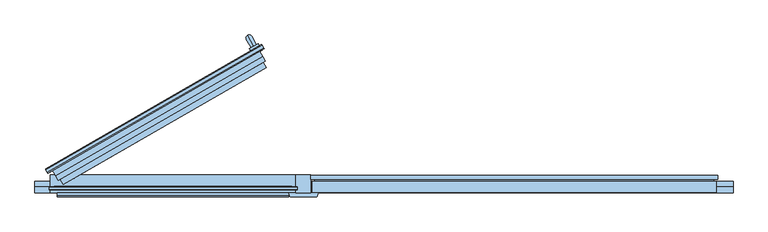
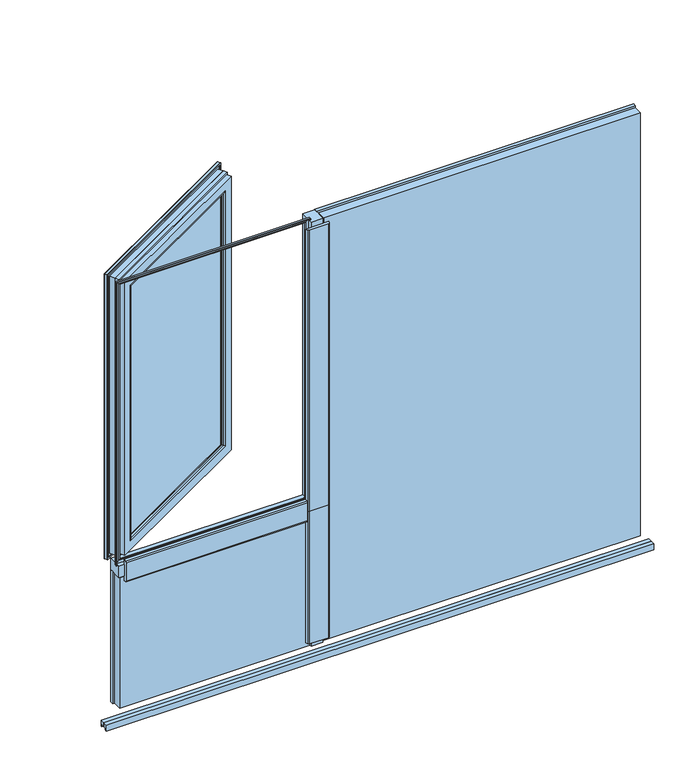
"""IFC4 building model written with IfcOpenShell, lengths in millimetres: window geometry, windowss9000gealanturntiltwindowsublightfixedwindow : windowss9000 2.60 x 2.25."""

from ifc_helpers import new_model, si_unit, point, frame, frame_2d, origin, place, context, project, spatial, polyline, circle_curve, ellipse_curve, trimmed, segment, composite_curve, outline, extrude, faceted_brep, source, transform, mapped, element, save
from ifc_brep_helpers import plane_surface, cylinder_surface, advanced_brep


def window_dbaeacc6(model_context):
    return source(origin(), model_context, "Body", "SolidModel", [
        faceted_brep([(-1225.0185609, -81.9435696, 1634.9814391), (-1225.0185609, -81.9435696, 3015.0185609), (-1228.9615609, -82.1650228, 3018.9615609), (-1228.9615609, -82.1650228, 1631.0384391), (-1225.0185609, -80.4586856, 1634.9814391), (-1225.0185609, -80.4586856, 3015.0185609), (-1227.3731482, -79.9993258, 1632.6268518), (-1227.3731482, -79.9993258, 3017.3731482), (-1246.1, -81.7, 1613.9), (-1246.1, -81.7, 3036.1), (-1246.1, -90.9718819, 1613.9), (-1246.1, -90.9718819, 3036.1), (-1246.4143137, -92.4497497, 1613.5856863), (-1246.4143137, -92.4497497, 3036.4143137), (-1245.4535534, -92.3254352, 1614.5464466), (-1245.4535534, -92.3254352, 3035.4535534), (-1243.8934304, -89.4676231, 1616.1065696), (-1243.8934304, -89.4676231, 3033.8934304), (-1243.4676669, -84.0419926, 1616.5323331), (-1243.4676669, -84.0419926, 3033.4676669), (-344.9814391, -81.9435696, 3015.0185609), (-341.0384391, -82.1650228, 3018.9615609), (-344.9814391, -80.4586856, 3015.0185609), (-342.6268518, -79.9993258, 3017.3731482), (-323.9, -81.7, 3036.1), (-323.9, -90.9718819, 3036.1), (-323.5856863, -92.4497497, 3036.4143137), (-324.5464466, -92.3254352, 3035.4535534), (-326.1065696, -89.4676231, 3033.8934304), (-326.5323331, -84.0419926, 3033.4676669), (-344.9814391, -81.9435696, 1634.9814391), (-341.0384391, -82.1650228, 1631.0384391), (-344.9814391, -80.4586856, 1634.9814391), (-342.6268518, -79.9993258, 1632.6268518), (-323.9, -81.7, 1613.9), (-323.9, -90.9718819, 1613.9), (-323.5856863, -92.4497497, 1613.5856863), (-324.5464466, -92.3254352, 1614.5464466), (-326.1065696, -89.4676231, 1616.1065696), (-326.5323331, -84.0419926, 1616.5323331)], [[[0, 1, 2, 3]], [[4, 5, 1, 0]], [[6, 7, 5, 4]], [[8, 9, 7, 6]], [[10, 11, 9, 8]], [[12, 13, 11, 10]], [[14, 15, 13, 12]], [[16, 17, 15, 14]], [[18, 19, 17, 16]], [[3, 2, 19, 18]], [[1, 20, 21, 2]], [[5, 22, 20, 1]], [[7, 23, 22, 5]], [[9, 24, 23, 7]], [[11, 25, 24, 9]], [[13, 26, 25, 11]], [[15, 27, 26, 13]], [[17, 28, 27, 15]], [[19, 29, 28, 17]], [[2, 21, 29, 19]], [[20, 30, 31, 21]], [[22, 32, 30, 20]], [[23, 33, 32, 22]], [[24, 34, 33, 23]], [[25, 35, 34, 24]], [[26, 36, 35, 25]], [[27, 37, 36, 26]], [[28, 38, 37, 27]], [[29, 39, 38, 28]], [[21, 31, 39, 29]], [[30, 0, 3, 31]], [[32, 4, 0, 30]], [[33, 6, 4, 32]], [[34, 8, 6, 33]], [[35, 10, 8, 34]], [[36, 12, 10, 35]], [[37, 14, 12, 36]], [[38, 16, 14, 37]], [[39, 18, 16, 38]], [[31, 3, 18, 39]]]),
        extrude(outline(polyline([(913.9987828, 1226.0012172), (3016.0012172, 1226.0012172), (3016.0012172, -256.0012172), (913.9987828, -256.0012172), (913.9987828, 1226.0012172)]), holes=[polyline([(3006.0012172, 1216.0012172), (923.9987828, 1216.0012172), (923.9987828, -246.0012172), (3006.0012172, -246.0012172), (3006.0012172, 1216.0012172)])]), frame((0.0, -62.0, 0.0), z_axis=(0.0, 1.0, 0.0), x_axis=(0.0, 0.0, 1.0)), (0.0, 0.0, 1.0), 2.5),
        advanced_brep(
        [(1242.0, -39.0, 3032.0), (1242.0, -54.5, 3032.0), (1242.0, -54.5, 898.0), (1242.0, -39.0, 898.0), (1227.8034793, -59.5, 3017.8034793), (1227.8034793, -59.5, 912.1965207), (1229.1432253, -54.5, 910.8567747), (1229.1432253, -54.5, 3019.1432253), (1216.0012172, -57.9825503, 3006.0012172), (1216.0012172, -57.9825503, 923.9987828), (1216.0012172, -59.5, 923.9987828), (1216.0012172, -59.5, 3006.0012172), (1219.8959832, -43.4470857, 3009.8959832), (1219.8959832, -43.4470857, 920.1040168), (1225.6915381, -39.0, 3015.6915381), (1225.6915381, -39.0, 914.3084619), (-272.0, -54.5, 898.0), (-272.0, -39.0, 898.0), (-257.8034793, -59.5, 912.1965207), (-259.1432253, -54.5, 910.8567747), (-246.0012172, -57.9825503, 923.9987828), (-246.0012172, -59.5, 923.9987828), (-249.8959832, -43.4470857, 920.1040168), (-255.6915381, -39.0, 914.3084619), (-272.0, -54.5, 3032.0), (-272.0, -39.0, 3032.0), (-257.8034793, -59.5, 3017.8034793), (-259.1432253, -54.5, 3019.1432253), (-246.0012172, -57.9825503, 3006.0012172), (-246.0012172, -59.5, 3006.0012172), (-249.8959832, -43.4470857, 3009.8959832), (-255.6915381, -39.0, 3015.6915381)],
        [
            (0, 1),
            (1, 2),
            (2, 3),
            (3, 0),
            (4, 5),
            (5, 6),
            (6, 7),
            (7, 4),
            (8, 9),
            (9, 10),
            (10, 11),
            (11, 8),
            (12, 13),
            (13, 9),
            (8, 12),
            (14, 15),
            (15, 13, ellipse_curve(frame((1225.6915381, -45.0, 914.3084619), z_axis=(0.7071067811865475, 0.0, 0.7071067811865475), x_axis=(-0.7071067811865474, 0.0, 0.7071067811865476)), 8.4852814, 6.0)),
            (12, 14, ellipse_curve(frame((1225.6915381, -45.0, 3015.6915381), z_axis=(0.7071067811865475, 0.0, -0.7071067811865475), x_axis=(0.7071067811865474, 0.0, 0.7071067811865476)), 8.4852814, 6.0)),
            (2, 16),
            (16, 17),
            (17, 3),
            (5, 18),
            (18, 19),
            (19, 6),
            (9, 20),
            (20, 21),
            (21, 10),
            (13, 22),
            (22, 20),
            (15, 23),
            (23, 22, ellipse_curve(frame((-255.6915381, -45.0, 914.3084619), z_axis=(0.7071067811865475, 0.0, -0.7071067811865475), x_axis=(0.7071067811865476, 0.0, 0.7071067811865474)), 8.4852814, 6.0)),
            (16, 24),
            (24, 25),
            (25, 17),
            (18, 26),
            (26, 27),
            (27, 19),
            (20, 28),
            (28, 29),
            (29, 21),
            (22, 30),
            (30, 28),
            (23, 31),
            (31, 30, ellipse_curve(frame((-255.6915381, -45.0, 3015.6915381), z_axis=(-0.7071067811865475, 0.0, -0.7071067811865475), x_axis=(0.7071067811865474, 0.0, -0.7071067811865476)), 8.4852814, 6.0)),
            (25, 0),
            (14, 31),
            (24, 1),
            (27, 7),
            (26, 4),
            (29, 11),
            (28, 8),
            (30, 12),
        ],
        [
            plane_surface(frame((1242.0, -40.0, 3032.0), z_axis=(1.0, 0.0, 0.0), x_axis=(0.0, 0.0, -1.0))),
            plane_surface(frame((1229.1432253, -54.5, 3019.1432253), z_axis=(0.9659258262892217, -0.2588190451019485, 0.0), x_axis=(0.0, 0.0, -1.0))),
            plane_surface(frame((1216.0012172, -59.5, 3006.0012172), z_axis=(-1.0, 0.0, 0.0), x_axis=(0.0, 0.0, -1.0))),
            plane_surface(frame((1216.0012172, -57.9825503, 3006.0012172), z_axis=(-0.96592582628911, 0.2588190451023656, 0.0), x_axis=(0.0, 0.0, -1.0))),
            cylinder_surface(frame((1225.6915381, -45.0, 3032.0), z_axis=(0.0, 0.0, 1.0), x_axis=(-0.9659258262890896, 0.25881904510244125, 0.0)), 6.0),
            plane_surface(frame((1242.0, -40.0, 898.0), z_axis=(0.0, 0.0, -1.0), x_axis=(-1.0, 0.0, 0.0))),
            plane_surface(frame((1229.1432253, -54.5, 910.8567747), z_axis=(0.0, -0.2588190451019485, -0.9659258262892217), x_axis=(-1.0, 0.0, 0.0))),
            plane_surface(frame((1216.0012172, -59.5, 923.9987828), z_axis=(0.0, 0.0, 1.0), x_axis=(-1.0, 0.0, 0.0))),
            plane_surface(frame((1216.0012172, -57.9825503, 923.9987828), z_axis=(0.0, 0.2588190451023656, 0.96592582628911), x_axis=(-1.0, 0.0, 0.0))),
            cylinder_surface(frame((1242.0, -45.0, 914.3084619), z_axis=(1.0, 0.0, 0.0), x_axis=(0.0, 0.25881904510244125, 0.9659258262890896)), 6.0),
            plane_surface(frame((-272.0, -40.0, 898.0), z_axis=(-1.0, 0.0, 0.0), x_axis=(0.0, 0.0, 1.0))),
            plane_surface(frame((-259.1432253, -54.5, 910.8567747), z_axis=(-0.9659258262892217, -0.2588190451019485, 0.0), x_axis=(0.0, 0.0, 1.0))),
            plane_surface(frame((-246.0012172, -59.5, 923.9987828), z_axis=(1.0, 0.0, 0.0), x_axis=(0.0, 0.0, 1.0))),
            plane_surface(frame((-246.0012172, -57.9825503, 923.9987828), z_axis=(0.96592582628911, 0.2588190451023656, 0.0), x_axis=(0.0, 0.0, 1.0))),
            cylinder_surface(frame((-255.6915381, -45.0, 898.0), z_axis=(0.0, 0.0, -1.0), x_axis=(0.9659258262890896, 0.25881904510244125, 0.0)), 6.0),
            plane_surface(frame((-255.6915381, -39.0, 3015.6915381), z_axis=(0.0, 1.0, 0.0), x_axis=(1.0, 0.0, 0.0))),
            plane_surface(frame((-272.0, -40.0, 3032.0), z_axis=(0.0, 0.0, 1.0), x_axis=(1.0, 0.0, 0.0))),
            plane_surface(frame((-272.0, -54.5, 3032.0), z_axis=(0.0, -1.0, 0.0), x_axis=(1.0, 0.0, 0.0))),
            plane_surface(frame((-259.1432253, -54.5, 3019.1432253), z_axis=(0.0, -0.2588190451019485, 0.9659258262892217), x_axis=(1.0, 0.0, 0.0))),
            plane_surface(frame((-257.8034793, -59.5, 3017.8034793), z_axis=(0.0, -1.0, 0.0), x_axis=(1.0, 0.0, 0.0))),
            plane_surface(frame((-246.0012172, -59.5, 3006.0012172), z_axis=(0.0, 0.0, -1.0), x_axis=(1.0, 0.0, 0.0))),
            plane_surface(frame((-246.0012172, -57.9825503, 3006.0012172), z_axis=(0.0, 0.2588190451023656, -0.96592582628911), x_axis=(1.0, 0.0, 0.0))),
            cylinder_surface(frame((-272.0, -45.0, 3015.6915381), z_axis=(-1.0, 0.0, 0.0), x_axis=(0.0, 0.25881904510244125, -0.9659258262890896)), 6.0),
        ],
        [
            (0, [[1, 2, 3, 4]]),
            (1, [[5, 6, 7, 8]]),
            (2, [[9, 10, 11, 12]]),
            (3, [[13, 14, -9, 15]]),
            (4, [[16, 17, -13, 18]]),
            (5, [[19, 20, 21, -3]]),
            (6, [[22, 23, 24, -6]]),
            (7, [[25, 26, 27, -10]]),
            (8, [[28, 29, -25, -14]]),
            (9, [[30, 31, -28, -17]]),
            (10, [[32, 33, 34, -20]]),
            (11, [[35, 36, 37, -23]]),
            (12, [[38, 39, 40, -26]]),
            (13, [[41, 42, -38, -29]]),
            (14, [[43, 44, -41, -31]]),
            (15, [[-4, -21, -34, 45], [-16, 46, -43, -30]]),
            (16, [[47, -1, -45, -33]]),
            (17, [[-2, -47, -32, -19], [-7, -24, -37, 48]]),
            (18, [[49, -8, -48, -36]]),
            (19, [[-5, -49, -35, -22], [-11, -27, -40, 50]]),
            (20, [[51, -12, -50, -39]]),
            (21, [[52, -15, -51, -42]]),
            (22, [[-46, -18, -52, -44]]),
        ],
    ),
        extrude(outline(polyline([(913.9987828, -343.9987828), (1546.0012172, -343.9987828), (1546.0012172, -1226.0012172), (913.9987828, -1226.0012172), (913.9987828, -343.9987828)]), holes=[polyline([(1536.0012172, -353.9987828), (923.9987828, -353.9987828), (923.9987828, -1216.0012172), (1536.0012172, -1216.0012172), (1536.0012172, -353.9987828)])]), frame((0.0, -62.0, 0.0), z_axis=(0.0, 1.0, 0.0), x_axis=(0.0, 0.0, 1.0)), (0.0, 0.0, 1.0), 2.5),
        advanced_brep(
        [(-328.0, -39.0, 1562.0), (-328.0, -54.5, 1562.0), (-328.0, -54.5, 898.0), (-328.0, -39.0, 898.0), (-342.1965207, -59.5, 1547.8034793), (-342.1965207, -59.5, 912.1965207), (-340.8567747, -54.5, 910.8567747), (-340.8567747, -54.5, 1549.1432253), (-353.9987828, -57.9825503, 1536.0012172), (-353.9987828, -57.9825503, 923.9987828), (-353.9987828, -59.5, 923.9987828), (-353.9987828, -59.5, 1536.0012172), (-350.1040168, -43.4470857, 1539.8959832), (-350.1040168, -43.4470857, 920.1040168), (-344.3084619, -39.0, 1545.6915381), (-344.3084619, -39.0, 914.3084619), (-1242.0, -54.5, 898.0), (-1242.0, -39.0, 898.0), (-1227.8034793, -59.5, 912.1965207), (-1229.1432253, -54.5, 910.8567747), (-1216.0012172, -57.9825503, 923.9987828), (-1216.0012172, -59.5, 923.9987828), (-1219.8959832, -43.4470857, 920.1040168), (-1225.6915381, -39.0, 914.3084619), (-1242.0, -54.5, 1562.0), (-1242.0, -39.0, 1562.0), (-1227.8034793, -59.5, 1547.8034793), (-1229.1432253, -54.5, 1549.1432253), (-1216.0012172, -57.9825503, 1536.0012172), (-1216.0012172, -59.5, 1536.0012172), (-1219.8959832, -43.4470857, 1539.8959832), (-1225.6915381, -39.0, 1545.6915381)],
        [
            (0, 1),
            (1, 2),
            (2, 3),
            (3, 0),
            (4, 5),
            (5, 6),
            (6, 7),
            (7, 4),
            (8, 9),
            (9, 10),
            (10, 11),
            (11, 8),
            (12, 13),
            (13, 9),
            (8, 12),
            (14, 15),
            (15, 13, ellipse_curve(frame((-344.3084619, -45.0, 914.3084619), z_axis=(0.7071067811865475, 0.0, 0.7071067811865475), x_axis=(-0.7071067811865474, 0.0, 0.7071067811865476)), 8.4852814, 6.0)),
            (12, 14, ellipse_curve(frame((-344.3084619, -45.0, 1545.6915381), z_axis=(0.7071067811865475, 0.0, -0.7071067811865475), x_axis=(0.7071067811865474, 0.0, 0.7071067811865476)), 8.4852814, 6.0)),
            (2, 16),
            (16, 17),
            (17, 3),
            (5, 18),
            (18, 19),
            (19, 6),
            (9, 20),
            (20, 21),
            (21, 10),
            (13, 22),
            (22, 20),
            (15, 23),
            (23, 22, ellipse_curve(frame((-1225.6915381, -45.0, 914.3084619), z_axis=(0.7071067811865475, 0.0, -0.7071067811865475), x_axis=(0.7071067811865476, 0.0, 0.7071067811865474)), 8.4852814, 6.0)),
            (16, 24),
            (24, 25),
            (25, 17),
            (18, 26),
            (26, 27),
            (27, 19),
            (20, 28),
            (28, 29),
            (29, 21),
            (22, 30),
            (30, 28),
            (23, 31),
            (31, 30, ellipse_curve(frame((-1225.6915381, -45.0, 1545.6915381), z_axis=(-0.7071067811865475, 0.0, -0.7071067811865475), x_axis=(0.7071067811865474, 0.0, -0.7071067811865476)), 8.4852814, 6.0)),
            (25, 0),
            (14, 31),
            (24, 1),
            (27, 7),
            (26, 4),
            (29, 11),
            (28, 8),
            (30, 12),
        ],
        [
            plane_surface(frame((-328.0, -40.0, 1562.0), z_axis=(1.0, 0.0, 0.0), x_axis=(0.0, 0.0, -1.0))),
            plane_surface(frame((-340.8567747, -54.5, 1549.1432253), z_axis=(0.9659258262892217, -0.2588190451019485, 0.0), x_axis=(0.0, 0.0, -1.0))),
            plane_surface(frame((-353.9987828, -59.5, 1536.0012172), z_axis=(-1.0, 0.0, 0.0), x_axis=(0.0, 0.0, -1.0))),
            plane_surface(frame((-353.9987828, -57.9825503, 1536.0012172), z_axis=(-0.96592582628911, 0.2588190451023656, 0.0), x_axis=(0.0, 0.0, -1.0))),
            cylinder_surface(frame((-344.3084619, -45.0, 1562.0), z_axis=(0.0, 0.0, 1.0), x_axis=(-0.9659258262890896, 0.25881904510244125, 0.0)), 6.0),
            plane_surface(frame((-328.0, -40.0, 898.0), z_axis=(0.0, 0.0, -1.0), x_axis=(-1.0, 0.0, 0.0))),
            plane_surface(frame((-340.8567747, -54.5, 910.8567747), z_axis=(0.0, -0.2588190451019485, -0.9659258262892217), x_axis=(-1.0, 0.0, 0.0))),
            plane_surface(frame((-353.9987828, -59.5, 923.9987828), z_axis=(0.0, 0.0, 1.0), x_axis=(-1.0, 0.0, 0.0))),
            plane_surface(frame((-353.9987828, -57.9825503, 923.9987828), z_axis=(0.0, 0.2588190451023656, 0.96592582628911), x_axis=(-1.0, 0.0, 0.0))),
            cylinder_surface(frame((-328.0, -45.0, 914.3084619), z_axis=(1.0, 0.0, 0.0), x_axis=(0.0, 0.25881904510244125, 0.9659258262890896)), 6.0),
            plane_surface(frame((-1242.0, -40.0, 898.0), z_axis=(-1.0, 0.0, 0.0), x_axis=(0.0, 0.0, 1.0))),
            plane_surface(frame((-1229.1432253, -54.5, 910.8567747), z_axis=(-0.9659258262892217, -0.2588190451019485, 0.0), x_axis=(0.0, 0.0, 1.0))),
            plane_surface(frame((-1216.0012172, -59.5, 923.9987828), z_axis=(1.0, 0.0, 0.0), x_axis=(0.0, 0.0, 1.0))),
            plane_surface(frame((-1216.0012172, -57.9825503, 923.9987828), z_axis=(0.96592582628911, 0.2588190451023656, 0.0), x_axis=(0.0, 0.0, 1.0))),
            cylinder_surface(frame((-1225.6915381, -45.0, 898.0), z_axis=(0.0, 0.0, -1.0), x_axis=(0.9659258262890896, 0.25881904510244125, 0.0)), 6.0),
            plane_surface(frame((-1225.6915381, -39.0, 1545.6915381), z_axis=(0.0, 1.0, 0.0), x_axis=(1.0, 0.0, 0.0))),
            plane_surface(frame((-1242.0, -40.0, 1562.0), z_axis=(0.0, 0.0, 1.0), x_axis=(1.0, 0.0, 0.0))),
            plane_surface(frame((-1242.0, -54.5, 1562.0), z_axis=(0.0, -1.0, 0.0), x_axis=(1.0, 0.0, 0.0))),
            plane_surface(frame((-1229.1432253, -54.5, 1549.1432253), z_axis=(0.0, -0.2588190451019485, 0.9659258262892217), x_axis=(1.0, 0.0, 0.0))),
            plane_surface(frame((-1227.8034793, -59.5, 1547.8034793), z_axis=(0.0, -1.0, 0.0), x_axis=(1.0, 0.0, 0.0))),
            plane_surface(frame((-1216.0012172, -59.5, 1536.0012172), z_axis=(0.0, 0.0, -1.0), x_axis=(1.0, 0.0, 0.0))),
            plane_surface(frame((-1216.0012172, -57.9825503, 1536.0012172), z_axis=(0.0, 0.2588190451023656, -0.96592582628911), x_axis=(1.0, 0.0, 0.0))),
            cylinder_surface(frame((-1242.0, -45.0, 1545.6915381), z_axis=(-1.0, 0.0, 0.0), x_axis=(0.0, 0.25881904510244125, -0.9659258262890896)), 6.0),
        ],
        [
            (0, [[1, 2, 3, 4]]),
            (1, [[5, 6, 7, 8]]),
            (2, [[9, 10, 11, 12]]),
            (3, [[13, 14, -9, 15]]),
            (4, [[16, 17, -13, 18]]),
            (5, [[19, 20, 21, -3]]),
            (6, [[22, 23, 24, -6]]),
            (7, [[25, 26, 27, -10]]),
            (8, [[28, 29, -25, -14]]),
            (9, [[30, 31, -28, -17]]),
            (10, [[32, 33, 34, -20]]),
            (11, [[35, 36, 37, -23]]),
            (12, [[38, 39, 40, -26]]),
            (13, [[41, 42, -38, -29]]),
            (14, [[43, 44, -41, -31]]),
            (15, [[-4, -21, -34, 45], [-16, 46, -43, -30]]),
            (16, [[47, -1, -45, -33]]),
            (17, [[-2, -47, -32, -19], [-7, -24, -37, 48]]),
            (18, [[49, -8, -48, -36]]),
            (19, [[-5, -49, -35, -22], [-11, -27, -40, 50]]),
            (20, [[51, -12, -50, -39]]),
            (21, [[52, -15, -51, -42]]),
            (22, [[-46, -18, -52, -44]]),
        ],
    ),
        extrude(outline(polyline([(-267.0, -102.0), (-267.0, -62.0), (1237.0, -62.0), (1237.0, -102.0), (-267.0, -102.0)])), frame((0.0, 0.0, 903.0), z_axis=(0.0, 0.0, 1.0), x_axis=(1.0, 0.0, 0.0)), (0.0, 0.0, 1.0), 2124.0),
        extrude(outline(composite_curve([segment(polyline([(-254.3447903, -120.0), (-345.6552097, -120.0)]), True, "CONTINUOUS"), segment(trimmed(circle_curve(frame_2d((-345.6552097, -114.0)), 6.0), [point((-345.6552097, -120.0))], [point((-351.4507647, -115.5529143))], False, "CARTESIAN"), True, "CONTINUOUS"), segment(polyline([(-351.4507647, -115.5529143), (-354.3100167, -105.0), (-245.7215904, -105.0), (-248.5492353, -115.5529143)]), True, "CONTINUOUS"), segment(trimmed(circle_curve(frame_2d((-254.3447903, -114.0)), 6.0), [point((-248.5492353, -115.5529143))], [point((-254.3447903, -120.0))], False, "CARTESIAN"), True, "CONTINUOUS")], self_intersect=False)), frame((0.0, 0.0, 1590.0), z_axis=(0.0, 0.0, 1.0), x_axis=(1.0, 0.0, 0.0)), (0.0, 0.0, 1.0), 1411.9),
        extrude(outline(polyline([(-328.0, -37.5), (-272.0, -37.5), (-272.0, -105.0), (-328.0, -105.0), (-328.0, -37.5)])), frame((0.0, 0.0, 1590.0), z_axis=(0.0, 0.0, 1.0), x_axis=(1.0, 0.0, 0.0)), (0.0, 0.0, 1.0), 1437.9),
        extrude(outline(composite_curve([segment(polyline([(-254.3447903, -120.0), (-345.6552097, -120.0)]), True, "CONTINUOUS"), segment(trimmed(circle_curve(frame_2d((-345.6552097, -114.0)), 6.0), [point((-345.6552097, -120.0))], [point((-351.4507647, -115.5529143))], False, "CARTESIAN"), True, "CONTINUOUS"), segment(polyline([(-351.4507647, -115.5529143), (-354.3100167, -105.0), (-245.7215904, -105.0), (-248.5492353, -115.5529143)]), True, "CONTINUOUS"), segment(trimmed(circle_curve(frame_2d((-254.3447903, -114.0)), 6.0), [point((-248.5492353, -115.5529143))], [point((-254.3447903, -120.0))], False, "CARTESIAN"), True, "CONTINUOUS")], self_intersect=False)), frame((0.0, 0.0, 924.0), z_axis=(0.0, 0.0, 1.0), x_axis=(1.0, 0.0, 0.0)), (0.0, 0.0, 1.0), 666.0),
        extrude(outline(polyline([(-328.0, -37.5), (-272.0, -37.5), (-272.0, -105.0), (-328.0, -105.0), (-328.0, -37.5)])), frame((0.0, 0.0, 898.0), z_axis=(0.0, 0.0, 1.0), x_axis=(1.0, 0.0, 0.0)), (0.0, 0.0, 1.0), 692.0),
        extrude(outline(composite_curve([segment(polyline([(-115.5529143, 1641.4507647), (-105.0, 1644.2784096), (-105.0, 1535.6899833), (-115.5529143, 1538.5492353)]), True, "CONTINUOUS"), segment(trimmed(circle_curve(frame_2d((-114.0, 1544.3447903)), 6.0), [point((-115.5529143, 1538.5492353))], [point((-120.0, 1544.3447903))], False, "CARTESIAN"), True, "CONTINUOUS"), segment(polyline([(-120.0, 1544.3447903), (-120.0, 1635.6552097)]), True, "CONTINUOUS"), segment(trimmed(circle_curve(frame_2d((-114.0, 1635.6552097)), 6.0), [point((-120.0, 1635.6552097))], [point((-115.5529143, 1641.4507647))], False, "CARTESIAN"), True, "CONTINUOUS")], self_intersect=False)), frame((-1216.0, 0.0, 0.0), z_axis=(1.0, 0.0, 0.0), x_axis=(0.0, 1.0, 0.0)), (0.0, 0.0, 1.0), 861.6899833),
        faceted_brep([(-1242.0, -37.5, 1562.0), (-1242.0, -105.0, 1562.0), (-1242.0, -105.0, 1618.0), (-1242.0, -37.5, 1618.0), (-328.0, -37.5, 1562.0), (-328.0, -105.0, 1562.0), (-354.3100167, -105.0, 1562.0), (-328.0, -105.0, 1618.0), (-354.3100167, -105.0, 1618.0), (-328.0, -37.5, 1618.0)], [[[0, 1, 2, 3]], [[0, 4, 5, 6, 1]], [[1, 6, 5, 7, 8, 2]], [[2, 8, 7, 9, 3]], [[3, 9, 4, 0]], [[4, 9, 7, 5]]]),
        advanced_brep(
        [(-485.001819, 443.431724, 2295.5), (-485.001819, 443.431724, 2272.5), (-496.751819, 463.783321, 2272.5), (-508.251819, 483.7019053, 2295.5), (-508.251819, 483.7019053, 2167.0), (-496.751819, 463.783321, 2167.0)],
        [
            (0, 1, circle_curve(frame((-485.001819, 443.431724, 2284.0), z_axis=(0.49999999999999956, -0.8660254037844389, 0.0), x_axis=(0.0, 0.0, -1.0)), 11.5)),
            (1, 0, circle_curve(frame((-485.001819, 443.431724, 2284.0), z_axis=(0.49999999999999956, -0.8660254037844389, 0.0), x_axis=(0.0, 0.0, -1.0)), 11.5)),
            (1, 2),
            (2, 3, ellipse_curve(frame((-502.501819, 473.7426131, 2284.0), z_axis=(0.3535533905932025, -0.6123724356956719, 0.7071067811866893), x_axis=(0.3535533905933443, -0.6123724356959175, -0.7071067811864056)), 16.263456, 11.5)),
            (3, 0),
            (3, 2, ellipse_curve(frame((-502.501819, 473.7426131, 2284.0), z_axis=(0.3535533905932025, -0.6123724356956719, 0.7071067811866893), x_axis=(0.3535533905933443, -0.6123724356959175, -0.7071067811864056)), 16.263456, 11.5)),
            (4, 5, circle_curve(frame((-502.501819, 473.7426131, 2167.0), z_axis=(0.0, 0.0, -1.0), x_axis=(0.49999999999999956, -0.8660254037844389, 0.0)), 11.5)),
            (5, 4, circle_curve(frame((-502.501819, 473.7426131, 2167.0), z_axis=(0.0, 0.0, -1.0), x_axis=(0.49999999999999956, -0.8660254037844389, 0.0)), 11.5)),
            (2, 5),
            (4, 3),
        ],
        [
            plane_surface(frame((-485.001819, 443.431724, 2284.0), z_axis=(0.49999999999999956, -0.8660254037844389, 0.0), x_axis=(0.8660254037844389, 0.49999999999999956, 0.0))),
            cylinder_surface(frame((-485.001819, 443.431724, 2284.0), z_axis=(0.49999999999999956, -0.8660254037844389, 0.0), x_axis=(0.0, 0.0, -1.0)), 11.5),
            plane_surface(frame((-502.501819, 473.7426131, 2167.0), z_axis=(0.0, 0.0, -1.0), x_axis=(0.8660254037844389, 0.49999999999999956, 0.0))),
            cylinder_surface(frame((-502.501819, 473.7426131, 2284.0), z_axis=(0.0, 0.0, 1.0), x_axis=(0.49999999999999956, -0.8660254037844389, 0.0)), 11.5),
        ],
        [
            (0, [[1, 2]]),
            (1, [[3, 4, 5, -2]]),
            (1, [[-5, 6, -3, -1]]),
            (2, [[7, 8]]),
            (3, [[9, -7, 10, -4]]),
            (3, [[-10, -8, -9, -6]]),
        ],
    ),
        extrude(outline(polyline([(-463.9803491, 444.02147), (-496.023289, 425.52147), (-501.023289, 434.181724), (-468.9803491, 452.681724), (-463.9803491, 444.02147)])), frame((0.0, 0.0, 2225.0), z_axis=(0.0, 0.0, 1.0), x_axis=(1.0, 0.0, 0.0)), (0.0, 0.0, 1.0), 118.0),
        extrude(outline(polyline([(-1175.6461709, -41.3371686), (-1195.6461709, -6.6961524), (-495.8976447, 397.3038476), (-475.8976447, 362.6628314), (-1175.6461709, -41.3371686)])), frame((0.0, 0.0, 1671.0000002), z_axis=(0.0, 0.0, 1.0), x_axis=(1.0, 0.0, 0.0)), (0.0, 0.0, 1.0), 1308.0),
        extrude(outline(polyline([(1273.2, 7.2000001), (1273.2, -773.2), (-7.2, -773.2), (-7.2, 7.2000001), (1273.2, 7.2000001)]), holes=[polyline([(1266.0, -766.0), (1266.0, 0.0), (0.0, 0.0), (0.0, -766.0), (1266.0, -766.0)])]), frame((-1155.9596374, -33.4352448, 2958.0000002), z_axis=(-0.4999999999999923, 0.8660254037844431, 0.0), x_axis=(0.0, 0.0, -1.0)), (0.0, 0.0, 1.0), 3.0),
        extrude(outline(polyline([(777.5024344, 11.5), (777.5024344, -1277.5024344), (-11.5, -1277.5024344), (-11.5, 11.5), (777.5024344, 11.5)]), holes=[polyline([(766.0024344, -1266.0024344), (766.0024344, 0.0), (0.0, 0.0), (0.0, -1266.0024344), (766.0024344, -1266.0024344)])]), frame((-1177.4606916, 3.803239, 1691.998783), z_axis=(-0.49999999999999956, 0.8660254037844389, 0.0), x_axis=(0.8660254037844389, 0.49999999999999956, 0.0)), (0.0, 0.0, 1.0), 2.5),
        extrude(outline(polyline([(922.0, 8.0), (922.0, -1422.0), (-8.0000001, -1422.0), (-8.0000001, 8.0), (922.0, 8.0)]), holes=[polyline([(913.9999999, -1414.0), (913.9999999, 0.0), (0.0, 0.0), (0.0, -1414.0), (913.9999999, -1414.0)])]), frame((-452.9982983, 429.0, 3032.0000002), z_axis=(-0.49999999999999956, 0.8660254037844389, 0.0), x_axis=(-0.8660254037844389, -0.49999999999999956, 0.0)), (0.0, 0.0, 1.0), 3.5),
        advanced_brep(
        [(-1155.6872019, -50.5984621, 2966.3456727), (-1155.6872019, -50.5984621, 1683.6543277), (-1152.8916469, -43.8493954, 1689.4498827), (-1152.8916469, -43.8493954, 2960.5501178), (-1205.9750093, -54.8060797, 3012.0000002), (-1205.9750093, -54.8060797, 1638.0000002), (-1195.2250093, -73.4256258, 1638.0000002), (-1195.2250093, -73.4256258, 3012.0000002), (-1222.9032125, -41.4855716, 3020.0000002), (-1222.9032125, -41.4855716, 1630.0000002), (-1212.9032125, -58.8060797, 1630.0000002), (-1212.9032125, -58.8060797, 3020.0000002), (-1189.0270624, -36.3607847, 2988.1000002), (-1189.0270624, -36.3607847, 1661.9000002), (-1195.2770021, -25.5355716, 1661.9000002), (-1195.2770021, -25.5355716, 2988.1000002), (-1184.6041356, -49.9731535, 2991.0758177), (-1184.6041356, -49.9731535, 1658.9241827), (-1155.4417645, -34.3322271, 2958.0000002), (-1155.4417645, -34.3322271, 1692.0000002), (-1155.9596374, -33.4352448, 1692.0000002), (-1155.9596374, -33.4352448, 2958.0000002), (-477.8566137, 340.7472104, 1683.6543277), (-485.0992544, 341.7007221, 1689.4498827), (-449.0688063, 382.1939203, 1638.0000002), (-438.3188063, 363.5743742, 1638.0000002), (-452.1406031, 403.5144284, 1630.0000002), (-442.1406031, 386.1939203, 1630.0000002), (-473.5168738, 376.7392153, 1661.9000002), (-479.7668135, 387.5644284, 1661.9000002), (-463.9396799, 366.102664, 1658.9241827), (-492.0663052, 348.6677729, 1692.0000002), (-492.5841781, 349.5647552, 1692.0000002), (-477.8566137, 340.7472104, 2966.3456727), (-485.0992544, 341.7007221, 2960.5501178), (-449.0688063, 382.1939203, 3012.0000002), (-438.3188063, 363.5743742, 3012.0000002), (-452.1406031, 403.5144284, 3020.0000002), (-442.1406031, 386.1939203, 3020.0000002), (-473.5168738, 376.7392153, 2988.1000002), (-479.7668135, 387.5644284, 2988.1000002), (-463.9396799, 366.102664, 2991.0758177), (-492.0663052, 348.6677729, 2958.0000002), (-492.5841781, 349.5647552, 2958.0000002)],
        [
            (0, 1),
            (1, 2, ellipse_curve(frame((-1158.6872019, -45.4023097, 1683.6543277), z_axis=(-0.6123724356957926, -0.3535533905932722, 0.70710678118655), x_axis=(0.6123724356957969, 0.3535533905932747, 0.7071067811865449)), 8.4852814, 6.0)),
            (2, 3),
            (3, 0, ellipse_curve(frame((-1158.6872019, -45.4023097, 2966.3456727), z_axis=(-0.6123724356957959, -0.3535533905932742, -0.7071067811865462), x_axis=(-0.6123724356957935, -0.35355339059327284, 0.7071067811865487)), 8.4852814, 6.0)),
            (4, 5),
            (5, 6),
            (6, 7),
            (7, 4),
            (8, 9),
            (9, 10),
            (10, 11),
            (11, 8),
            (12, 13),
            (13, 14),
            (14, 15),
            (15, 12),
            (16, 17),
            (17, 13),
            (12, 16),
            (18, 19),
            (19, 20),
            (20, 21),
            (21, 18),
            (2, 19),
            (18, 3),
            (1, 22),
            (22, 23, ellipse_curve(frame((-480.8566137, 345.9433628, 1683.6543277), z_axis=(-0.6123724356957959, -0.3535533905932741, -0.7071067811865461), x_axis=(-0.6123724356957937, -0.35355339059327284, 0.7071067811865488)), 8.4852814, 6.0)),
            (23, 2),
            (5, 24),
            (24, 25),
            (25, 6),
            (9, 26),
            (26, 27),
            (27, 10),
            (13, 28),
            (28, 29),
            (29, 14),
            (17, 30),
            (30, 28),
            (19, 31),
            (31, 32),
            (32, 20),
            (23, 31),
            (22, 33),
            (33, 34, ellipse_curve(frame((-480.8566137, 345.9433628, 2966.3456727), z_axis=(0.6123724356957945, 0.3535533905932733, -0.7071067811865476), x_axis=(-0.6123724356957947, -0.3535533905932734, -0.7071067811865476)), 8.4852814, 6.0)),
            (34, 23),
            (24, 35),
            (35, 36),
            (36, 25),
            (26, 37),
            (37, 38),
            (38, 27),
            (28, 39),
            (39, 40),
            (40, 29),
            (30, 41),
            (41, 39),
            (31, 42),
            (42, 43),
            (43, 32),
            (34, 42),
            (33, 0),
            (3, 34),
            (36, 7),
            (35, 4),
            (38, 11),
            (37, 8),
            (40, 15),
            (39, 12),
            (41, 16),
            (43, 21),
            (42, 18),
        ],
        [
            cylinder_surface(frame((-1158.6872019, -45.4023097, 3040.0000002), z_axis=(0.0, 0.0, 1.0), x_axis=(0.5000000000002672, -0.8660254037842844, 0.0)), 6.0),
            plane_surface(frame((-1195.2250093, -73.4256258, 3012.0000002), z_axis=(-0.8660254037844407, -0.4999999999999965, 0.0), x_axis=(0.0, 0.0, -1.0))),
            plane_surface(frame((-1212.9032125, -58.8060797, 3020.0000002), z_axis=(-0.8660254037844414, -0.4999999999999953, 0.0), x_axis=(0.0, 0.0, -1.0))),
            plane_surface(frame((-1195.2770021, -25.5355716, 2988.1000002), z_axis=(0.8660254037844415, 0.49999999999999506, 0.0), x_axis=(0.0, 0.0, -1.0))),
            plane_surface(frame((-1189.0270624, -36.3607847, 2988.1000002), z_axis=(0.9510565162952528, 0.30901699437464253, 0.0), x_axis=(0.0, 0.0, -1.0))),
            plane_surface(frame((-1155.9596374, -33.4352448, 2958.0000002), z_axis=(0.8660254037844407, 0.4999999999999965, 0.0), x_axis=(0.0, 0.0, -1.0))),
            plane_surface(frame((-1155.4417645, -34.3322271, 2958.0000002), z_axis=(0.9659258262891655, 0.25881904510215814, 0.0), x_axis=(0.0, 0.0, -1.0))),
            cylinder_surface(frame((-1222.4737206, -82.2294734, 1683.6543277), z_axis=(-0.8660254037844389, -0.49999999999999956, 0.0), x_axis=(0.49999999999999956, -0.8660254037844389, 0.0)), 6.0),
            plane_surface(frame((-1195.2250093, -73.4256258, 1638.0000002), z_axis=(0.0, 0.0, -1.0), x_axis=(0.8660254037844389, 0.49999999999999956, 0.0))),
            plane_surface(frame((-1212.9032125, -58.8060797, 1630.0000002), z_axis=(0.0, 0.0, -1.0), x_axis=(0.8660254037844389, 0.49999999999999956, 0.0))),
            plane_surface(frame((-1195.2770021, -25.5355716, 1661.9000002), z_axis=(0.0, 0.0, 1.0), x_axis=(0.8660254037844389, 0.49999999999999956, 0.0))),
            plane_surface(frame((-1189.0270624, -36.3607847, 1661.9000002), z_axis=(0.10395584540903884, -0.18005680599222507, 0.9781476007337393), x_axis=(0.8660254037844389, 0.49999999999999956, 0.0))),
            plane_surface(frame((-1155.9596374, -33.4352448, 1692.0000002), z_axis=(0.0, 0.0, 1.0), x_axis=(0.8660254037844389, 0.49999999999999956, 0.0))),
            plane_surface(frame((-1155.4417645, -34.3322271, 1692.0000002), z_axis=(0.12940952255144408, -0.2241438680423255, 0.9659258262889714), x_axis=(0.8660254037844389, 0.49999999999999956, 0.0))),
            cylinder_surface(frame((-480.8566137, 345.9433628, 1610.0000002), z_axis=(0.0, 0.0, -1.0), x_axis=(0.4999999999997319, -0.8660254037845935, 0.0)), 6.0),
            plane_surface(frame((-438.3188063, 363.5743742, 1638.0000002), z_axis=(0.8660254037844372, 0.5000000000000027, 0.0), x_axis=(0.0, 0.0, 1.0))),
            plane_surface(frame((-442.1406031, 386.1939203, 1630.0000002), z_axis=(0.8660254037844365, 0.5000000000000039, 0.0), x_axis=(0.0, 0.0, 1.0))),
            plane_surface(frame((-479.7668135, 387.5644284, 1661.9000002), z_axis=(-0.8660254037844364, -0.500000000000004, 0.0), x_axis=(0.0, 0.0, 1.0))),
            plane_surface(frame((-473.5168738, 376.7392153, 1661.9000002), z_axis=(-0.7431448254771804, -0.6691306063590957, 0.0), x_axis=(0.0, 0.0, 1.0))),
            plane_surface(frame((-492.5841781, 349.5647552, 1692.0000002), z_axis=(-0.8660254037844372, -0.5000000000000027, 0.0), x_axis=(0.0, 0.0, 1.0))),
            plane_surface(frame((-492.0663052, 348.6677729, 1692.0000002), z_axis=(-0.7071067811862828, -0.7071067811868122, 0.0), x_axis=(0.0, 0.0, 1.0))),
            cylinder_surface(frame((-417.070095, 382.7705266, 2966.3456727), z_axis=(0.8660254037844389, 0.49999999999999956, 0.0), x_axis=(0.49999999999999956, -0.8660254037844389, 0.0)), 6.0),
            plane_surface(frame((-477.8566137, 340.7472104, 2966.3456727), z_axis=(0.49999999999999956, -0.8660254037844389, 0.0), x_axis=(-0.8660254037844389, -0.49999999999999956, 0.0))),
            plane_surface(frame((-438.3188063, 363.5743742, 3012.0000002), z_axis=(0.0, 0.0, 1.0), x_axis=(-0.8660254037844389, -0.49999999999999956, 0.0))),
            plane_surface(frame((-449.0688063, 382.1939203, 3012.0000002), z_axis=(0.49999999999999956, -0.8660254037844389, 0.0), x_axis=(-0.8660254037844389, -0.49999999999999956, 0.0))),
            plane_surface(frame((-442.1406031, 386.1939203, 3020.0000002), z_axis=(0.0, 0.0, 1.0), x_axis=(-0.8660254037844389, -0.49999999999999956, 0.0))),
            plane_surface(frame((-452.1406031, 403.5144284, 3020.0000002), z_axis=(-0.49999999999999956, 0.8660254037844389, 0.0), x_axis=(-0.8660254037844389, -0.49999999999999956, 0.0))),
            plane_surface(frame((-479.7668135, 387.5644284, 2988.1000002), z_axis=(0.0, 0.0, -1.0), x_axis=(-0.8660254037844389, -0.49999999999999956, 0.0))),
            plane_surface(frame((-473.5168738, 376.7392153, 2988.1000002), z_axis=(0.10395584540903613, -0.18005680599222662, -0.9781476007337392), x_axis=(-0.8660254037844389, -0.49999999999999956, 0.0))),
            plane_surface(frame((-491.7181527, 350.0647552, 2959.0000002), z_axis=(-0.49999999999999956, 0.8660254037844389, 0.0), x_axis=(-0.8660254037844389, -0.49999999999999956, 0.0))),
            plane_surface(frame((-492.5841781, 349.5647552, 2958.0000002), z_axis=(0.0, 0.0, -1.0), x_axis=(-0.8660254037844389, -0.49999999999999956, 0.0))),
            plane_surface(frame((-492.0663052, 348.6677729, 2958.0000002), z_axis=(0.12940952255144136, -0.2241438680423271, -0.9659258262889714), x_axis=(-0.8660254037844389, -0.49999999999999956, 0.0))),
        ],
        [
            (0, [[1, 2, 3, 4]]),
            (1, [[5, 6, 7, 8]]),
            (2, [[9, 10, 11, 12]]),
            (3, [[13, 14, 15, 16]]),
            (4, [[17, 18, -13, 19]]),
            (5, [[20, 21, 22, 23]]),
            (6, [[-3, 24, -20, 25]]),
            (7, [[26, 27, 28, -2]]),
            (8, [[29, 30, 31, -6]]),
            (9, [[32, 33, 34, -10]]),
            (10, [[35, 36, 37, -14]]),
            (11, [[38, 39, -35, -18]]),
            (12, [[40, 41, 42, -21]]),
            (13, [[-28, 43, -40, -24]]),
            (14, [[44, 45, 46, -27]]),
            (15, [[47, 48, 49, -30]]),
            (16, [[50, 51, 52, -33]]),
            (17, [[53, 54, 55, -36]]),
            (18, [[56, 57, -53, -39]]),
            (19, [[58, 59, 60, -41]]),
            (20, [[-46, 61, -58, -43]]),
            (21, [[62, -4, 63, -45]]),
            (22, [[-7, -31, -49, 64], [-1, -62, -44, -26]]),
            (23, [[65, -8, -64, -48]]),
            (24, [[-11, -34, -52, 66], [-5, -65, -47, -29]]),
            (25, [[67, -12, -66, -51]]),
            (26, [[-9, -67, -50, -32], [-15, -37, -55, 68]]),
            (27, [[69, -16, -68, -54]]),
            (28, [[70, -19, -69, -57]]),
            (29, [[-17, -70, -56, -38], [-22, -42, -60, 71]]),
            (30, [[72, -23, -71, -59]]),
            (31, [[-63, -25, -72, -61]]),
        ],
    ),
        advanced_brep(
        [(-1206.6012979, 2.2786842, 2984.0000002), (-1206.6012979, 2.2786842, 1666.0000002), (-1212.2262979, 12.02147, 1666.0000002), (-1212.2262979, 12.02147, 2984.0000002), (-1195.2770021, -25.5355716, 2988.1000002), (-1195.2770021, -25.5355716, 1661.9000002), (-1210.1520021, 0.2286842, 1661.9000002), (-1210.1520021, 0.2286842, 2988.1000002), (-1235.9032125, -18.9689111, 3020.0000002), (-1235.9032125, -18.9689111, 1630.0000002), (-1222.9032125, -41.4855716, 1630.0000002), (-1222.9032125, -41.4855716, 3020.0000002), (-1259.4737206, -18.1435935, 3040.0000002), (-1259.4737206, -18.1435935, 1610.0000002), (-1253.2237206, -28.9689111, 1610.0000002), (-1253.2237206, -28.9689111, 3040.0000002), (-1258.558657, -14.72853, 3037.5000002), (-1258.558657, -14.72853, 1612.5000002), (-498.1925177, 411.2786842, 1666.0000002), (-503.8175177, 421.02147, 1666.0000002), (-479.7668135, 387.5644284, 1661.9000002), (-494.6418135, 413.3286842, 1661.9000002), (-465.1406031, 426.0310889, 1630.0000002), (-452.1406031, 403.5144284, 1630.0000002), (-454.070095, 446.8564065, 1610.0000002), (-447.820095, 436.0310889, 1610.0000002), (-457.4851585, 447.77147, 1612.5000002), (-498.1925177, 411.2786842, 2984.0000002), (-503.8175177, 421.02147, 2984.0000002), (-479.7668135, 387.5644284, 2988.1000002), (-494.6418135, 413.3286842, 2988.1000002), (-465.1406031, 426.0310889, 3020.0000002), (-452.1406031, 403.5144284, 3020.0000002), (-454.070095, 446.8564065, 3040.0000002), (-447.820095, 436.0310889, 3040.0000002), (-457.4851585, 447.77147, 3037.5000002)],
        [
            (0, 1),
            (1, 2),
            (2, 3),
            (3, 0),
            (4, 5),
            (5, 6),
            (6, 7),
            (7, 4),
            (8, 9),
            (9, 10),
            (10, 11),
            (11, 8),
            (12, 13),
            (13, 14),
            (14, 15),
            (15, 12),
            (16, 17),
            (17, 13, ellipse_curve(frame((-1257.308657, -16.8935935, 1612.5000002), z_axis=(-0.6123724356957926, -0.3535533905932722, 0.70710678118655), x_axis=(0.6123724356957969, 0.3535533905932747, 0.7071067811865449)), 3.5355339, 2.5)),
            (12, 16, ellipse_curve(frame((-1257.308657, -16.8935935, 3037.5000002), z_axis=(-0.6123724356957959, -0.3535533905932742, -0.7071067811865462), x_axis=(-0.6123724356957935, -0.35355339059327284, 0.7071067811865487)), 3.5355339, 2.5)),
            (1, 18),
            (18, 19),
            (19, 2),
            (5, 20),
            (20, 21),
            (21, 6),
            (9, 22),
            (22, 23),
            (23, 10),
            (13, 24),
            (24, 25),
            (25, 14),
            (17, 26),
            (26, 24, ellipse_curve(frame((-456.2351585, 445.6064065, 1612.5000002), z_axis=(-0.6123724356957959, -0.3535533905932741, -0.7071067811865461), x_axis=(-0.6123724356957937, -0.35355339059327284, 0.7071067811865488)), 3.5355339, 2.5)),
            (18, 27),
            (27, 28),
            (28, 19),
            (20, 29),
            (29, 30),
            (30, 21),
            (22, 31),
            (31, 32),
            (32, 23),
            (24, 33),
            (33, 34),
            (34, 25),
            (26, 35),
            (35, 33, ellipse_curve(frame((-456.2351585, 445.6064065, 3037.5000002), z_axis=(0.6123724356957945, 0.3535533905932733, -0.7071067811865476), x_axis=(-0.6123724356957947, -0.3535533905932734, -0.7071067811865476)), 3.5355339, 2.5)),
            (16, 35),
            (28, 3),
            (27, 0),
            (30, 7),
            (29, 4),
            (32, 11),
            (31, 8),
            (34, 15),
            (33, 12),
        ],
        [
            plane_surface(frame((-1212.2262979, 12.02147, 2984.0000002), z_axis=(0.8660254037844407, 0.4999999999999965, 0.0), x_axis=(0.0, 0.0, -1.0))),
            plane_surface(frame((-1210.1520021, 0.2286842, 2988.1000002), z_axis=(0.8660254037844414, 0.4999999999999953, 0.0), x_axis=(0.0, 0.0, -1.0))),
            plane_surface(frame((-1222.9032125, -41.4855716, 3020.0000002), z_axis=(-0.8660254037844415, -0.4999999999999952, 0.0), x_axis=(0.0, 0.0, -1.0))),
            plane_surface(frame((-1253.2237206, -28.9689111, 3040.0000002), z_axis=(-0.8660254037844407, -0.4999999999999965, 0.0), x_axis=(0.0, 0.0, -1.0))),
            cylinder_surface(frame((-1257.308657, -16.8935935, 3040.0000002), z_axis=(0.0, 0.0, 1.0), x_axis=(-0.4999999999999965, 0.8660254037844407, 0.0)), 2.5),
            plane_surface(frame((-1212.2262979, 12.02147, 1666.0000002), z_axis=(0.0, 0.0, 1.0), x_axis=(0.8660254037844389, 0.49999999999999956, 0.0))),
            plane_surface(frame((-1210.1520021, 0.2286842, 1661.9000002), z_axis=(0.0, 0.0, 1.0), x_axis=(0.8660254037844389, 0.49999999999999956, 0.0))),
            plane_surface(frame((-1222.9032125, -41.4855716, 1630.0000002), z_axis=(0.0, 0.0, -1.0), x_axis=(0.8660254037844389, 0.49999999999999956, 0.0))),
            plane_surface(frame((-1253.2237206, -28.9689111, 1610.0000002), z_axis=(0.0, 0.0, -1.0), x_axis=(0.8660254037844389, 0.49999999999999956, 0.0))),
            cylinder_surface(frame((-1259.4737206, -18.1435935, 1612.5000002), z_axis=(-0.8660254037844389, -0.49999999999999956, 0.0), x_axis=(-0.49999999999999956, 0.8660254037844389, 0.0)), 2.5),
            plane_surface(frame((-503.8175177, 421.02147, 1666.0000002), z_axis=(-0.8660254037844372, -0.5000000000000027, 0.0), x_axis=(0.0, 0.0, 1.0))),
            plane_surface(frame((-494.6418135, 413.3286842, 1661.9000002), z_axis=(-0.8660254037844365, -0.5000000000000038, 0.0), x_axis=(0.0, 0.0, 1.0))),
            plane_surface(frame((-452.1406031, 403.5144284, 1630.0000002), z_axis=(0.8660254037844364, 0.5000000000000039, 0.0), x_axis=(0.0, 0.0, 1.0))),
            plane_surface(frame((-447.820095, 436.0310889, 1610.0000002), z_axis=(0.8660254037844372, 0.5000000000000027, 0.0), x_axis=(0.0, 0.0, 1.0))),
            cylinder_surface(frame((-456.2351585, 445.6064065, 1610.0000002), z_axis=(0.0, 0.0, -1.0), x_axis=(-0.5000000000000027, 0.8660254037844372, 0.0)), 2.5),
            plane_surface(frame((-457.4851585, 447.77147, 3037.5000002), z_axis=(-0.49999999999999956, 0.8660254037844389, 0.0), x_axis=(-0.8660254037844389, -0.49999999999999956, 0.0))),
            plane_surface(frame((-503.8175177, 421.02147, 2984.0000002), z_axis=(0.0, 0.0, -1.0), x_axis=(-0.8660254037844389, -0.49999999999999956, 0.0))),
            plane_surface(frame((-498.1925177, 411.2786842, 2984.0000002), z_axis=(0.49999999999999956, -0.8660254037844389, 0.0), x_axis=(-0.8660254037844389, -0.49999999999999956, 0.0))),
            plane_surface(frame((-494.6418135, 413.3286842, 2988.1000002), z_axis=(0.0, 0.0, -1.0), x_axis=(-0.8660254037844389, -0.49999999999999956, 0.0))),
            plane_surface(frame((-479.7668135, 387.5644284, 2988.1000002), z_axis=(0.49999999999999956, -0.8660254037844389, 0.0), x_axis=(-0.8660254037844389, -0.49999999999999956, 0.0))),
            plane_surface(frame((-452.1406031, 403.5144284, 3020.0000002), z_axis=(0.0, 0.0, 1.0), x_axis=(-0.8660254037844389, -0.49999999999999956, 0.0))),
            plane_surface(frame((-448.6861204, 435.5310889, 3039.0000002), z_axis=(0.49999999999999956, -0.8660254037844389, 0.0), x_axis=(-0.8660254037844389, -0.49999999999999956, 0.0))),
            plane_surface(frame((-447.820095, 436.0310889, 3040.0000002), z_axis=(0.0, 0.0, 1.0), x_axis=(-0.8660254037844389, -0.49999999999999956, 0.0))),
            cylinder_surface(frame((-454.070095, 446.8564065, 3037.5000002), z_axis=(0.8660254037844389, 0.49999999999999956, 0.0), x_axis=(-0.49999999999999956, 0.8660254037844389, 0.0)), 2.5),
        ],
        [
            (0, [[1, 2, 3, 4]]),
            (1, [[5, 6, 7, 8]]),
            (2, [[9, 10, 11, 12]]),
            (3, [[13, 14, 15, 16]]),
            (4, [[17, 18, -13, 19]]),
            (5, [[20, 21, 22, -2]]),
            (6, [[23, 24, 25, -6]]),
            (7, [[26, 27, 28, -10]]),
            (8, [[29, 30, 31, -14]]),
            (9, [[32, 33, -29, -18]]),
            (10, [[34, 35, 36, -21]]),
            (11, [[37, 38, 39, -24]]),
            (12, [[40, 41, 42, -27]]),
            (13, [[43, 44, 45, -30]]),
            (14, [[46, 47, -43, -33]]),
            (15, [[-17, 48, -46, -32], [-3, -22, -36, 49]]),
            (16, [[50, -4, -49, -35]]),
            (17, [[-7, -25, -39, 51], [-1, -50, -34, -20]]),
            (18, [[52, -8, -51, -38]]),
            (19, [[-11, -28, -42, 53], [-5, -52, -37, -23]]),
            (20, [[54, -12, -53, -41]]),
            (21, [[-15, -31, -45, 55], [-9, -54, -40, -26]]),
            (22, [[56, -16, -55, -44]]),
            (23, [[-48, -19, -56, -47]]),
        ],
    ),
        advanced_brep(
        [(-1190.110115, 17.9231511, 2961.8959834), (-1190.110115, 17.9231511, 1688.104017), (-1197.3527557, 18.8766628, 1682.3084621), (-1197.3527557, 18.8766628, 2967.6915384), (-1179.4694164, 7.2824525, 2958.0012174), (-1179.4694164, 7.2824525, 1691.998783), (-1178.7106916, 5.9683025, 2958.0012174), (-1178.7106916, 5.9683025, 1691.998783), (-1192.5920044, 3.7274255, 2971.1432255), (-1192.5920044, 3.7274255, 1678.856775), (-1188.9317504, 0.0671714, 1680.1965209), (-1188.9317504, 0.0671714, 2969.8034795), (-1203.7262979, -2.7009619, 2984.0000002), (-1211.4762979, 10.7224319, 2984.0000002), (-1211.4762979, 10.7224319, 1666.0000002), (-1203.7262979, -2.7009619, 1666.0000002), (-519.9866149, 404.8191342, 1688.104017), (-517.1910599, 411.5682009, 1682.3084621), (-516.0918489, 390.2836697, 1691.998783), (-515.333124, 388.9695197, 1691.998783), (-506.4518112, 399.8706507, 1678.856775), (-505.1120652, 394.8706507, 1680.1965209), (-503.0675177, 419.7224319, 1666.0000002), (-495.3175177, 406.2990381, 1666.0000002), (-519.9866149, 404.8191342, 2961.8959834), (-517.1910599, 411.5682009, 2967.6915384), (-516.0918489, 390.2836697, 2958.0012174), (-515.333124, 388.9695197, 2958.0012174), (-506.4518112, 399.8706507, 2971.1432255), (-505.1120652, 394.8706507, 2969.8034795), (-503.0675177, 419.7224319, 2984.0000002), (-495.3175177, 406.2990381, 2984.0000002)],
        [
            (0, 1),
            (1, 2, ellipse_curve(frame((-1194.3527557, 13.6805104, 1682.3084621), z_axis=(-0.6123724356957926, -0.3535533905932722, 0.70710678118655), x_axis=(0.6123724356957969, 0.3535533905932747, 0.7071067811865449)), 8.4852814, 6.0)),
            (2, 3),
            (3, 0, ellipse_curve(frame((-1194.3527557, 13.6805104, 2967.6915384), z_axis=(-0.6123724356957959, -0.3535533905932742, -0.7071067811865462), x_axis=(-0.6123724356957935, -0.35355339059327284, 0.7071067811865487)), 8.4852814, 6.0)),
            (4, 5),
            (5, 1),
            (0, 4),
            (6, 7),
            (7, 5),
            (4, 6),
            (8, 9),
            (9, 10),
            (10, 11),
            (11, 8),
            (12, 13),
            (13, 14),
            (14, 15),
            (15, 12),
            (1, 16),
            (16, 17, ellipse_curve(frame((-514.1910599, 406.3720485, 1682.3084621), z_axis=(-0.6123724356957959, -0.3535533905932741, -0.7071067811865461), x_axis=(-0.6123724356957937, -0.35355339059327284, 0.7071067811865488)), 8.4852814, 6.0)),
            (17, 2),
            (5, 18),
            (18, 16),
            (7, 19),
            (19, 18),
            (9, 20),
            (20, 21),
            (21, 10),
            (14, 22),
            (22, 23),
            (23, 15),
            (16, 24),
            (24, 25, ellipse_curve(frame((-514.1910599, 406.3720485, 2967.6915384), z_axis=(0.6123724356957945, 0.3535533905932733, -0.7071067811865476), x_axis=(-0.6123724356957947, -0.3535533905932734, -0.7071067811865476)), 8.4852814, 6.0)),
            (25, 17),
            (18, 26),
            (26, 24),
            (19, 27),
            (27, 26),
            (20, 28),
            (28, 29),
            (29, 21),
            (22, 30),
            (30, 31),
            (31, 23),
            (24, 0),
            (3, 25),
            (26, 4),
            (27, 6),
            (29, 11),
            (28, 8),
            (31, 12),
            (30, 13),
        ],
        [
            cylinder_surface(frame((-1194.3527557, 13.6805104, 3040.0000002), z_axis=(0.0, 0.0, 1.0), x_axis=(0.7071067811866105, 0.7071067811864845, 0.0)), 6.0),
            plane_surface(frame((-1190.110115, 17.9231511, 2961.8959834), z_axis=(0.7071067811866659, 0.7071067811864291, 0.0), x_axis=(0.0, 0.0, -1.0))),
            plane_surface(frame((-1179.4694164, 7.2824525, 2958.0012174), z_axis=(0.8660254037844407, 0.4999999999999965, 0.0), x_axis=(0.0, 0.0, -1.0))),
            plane_surface(frame((-1188.9317504, 0.0671714, 2969.8034795), z_axis=(-0.7071067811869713, -0.7071067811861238, 0.0), x_axis=(0.0, 0.0, -1.0))),
            plane_surface(frame((-1210.9762979, 9.8564065, 2984.0000002), z_axis=(-0.8660254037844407, -0.4999999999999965, 0.0), x_axis=(0.0, 0.0, -1.0))),
            cylinder_surface(frame((-1256.9737206, -22.4737206, 1682.3084621), z_axis=(-0.8660254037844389, -0.49999999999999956, 0.0), x_axis=(-0.12940952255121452, 0.22414386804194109, 0.9659258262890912)), 6.0),
            plane_surface(frame((-1190.110115, 17.9231511, 1688.104017), z_axis=(-0.12940952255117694, 0.2241438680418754, 0.9659258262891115), x_axis=(0.8660254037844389, 0.49999999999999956, 0.0))),
            plane_surface(frame((-1179.4694164, 7.2824525, 1691.998783), z_axis=(0.0, 0.0, 1.0), x_axis=(0.8660254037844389, 0.49999999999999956, 0.0))),
            plane_surface(frame((-1188.9317504, 0.0671714, 1680.1965209), z_axis=(0.12940952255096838, -0.22414386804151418, -0.9659258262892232), x_axis=(0.8660254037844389, 0.49999999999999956, 0.0))),
            plane_surface(frame((-1210.9762979, 9.8564065, 1666.0000002), z_axis=(0.0, 0.0, -1.0), x_axis=(0.8660254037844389, 0.49999999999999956, 0.0))),
            cylinder_surface(frame((-514.1910599, 406.3720485, 1610.0000002), z_axis=(0.0, 0.0, -1.0), x_axis=(-0.9659258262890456, -0.2588190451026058, 0.0)), 6.0),
            plane_surface(frame((-519.9866149, 404.8191342, 1688.104017), z_axis=(-0.9659258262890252, -0.2588190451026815, 0.0), x_axis=(0.0, 0.0, 1.0))),
            plane_surface(frame((-516.0918489, 390.2836697, 1691.998783), z_axis=(-0.8660254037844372, -0.5000000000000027, 0.0), x_axis=(0.0, 0.0, 1.0))),
            plane_surface(frame((-505.1120652, 394.8706507, 1680.1965209), z_axis=(0.9659258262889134, 0.2588190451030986, 0.0), x_axis=(0.0, 0.0, 1.0))),
            plane_surface(frame((-502.5675177, 418.8564065, 1666.0000002), z_axis=(0.8660254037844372, 0.5000000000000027, 0.0), x_axis=(0.0, 0.0, 1.0))),
            cylinder_surface(frame((-451.570095, 442.5262794, 2967.6915384), z_axis=(0.8660254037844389, 0.49999999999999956, 0.0), x_axis=(-0.12940952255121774, 0.22414386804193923, -0.9659258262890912)), 6.0),
            plane_surface(frame((-519.9866149, 404.8191342, 2961.8959834), z_axis=(-0.12940952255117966, 0.22414386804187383, -0.9659258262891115), x_axis=(-0.8660254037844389, -0.49999999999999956, 0.0))),
            plane_surface(frame((-516.0918489, 390.2836697, 2958.0012174), z_axis=(0.0, 0.0, -1.0), x_axis=(-0.8660254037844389, -0.49999999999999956, 0.0))),
            plane_surface(frame((-515.333124, 388.9695197, 2958.0012174), z_axis=(0.49999999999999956, -0.8660254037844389, 0.0), x_axis=(-0.8660254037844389, -0.49999999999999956, 0.0))),
            plane_surface(frame((-505.1120652, 394.8706507, 2969.8034795), z_axis=(0.1294095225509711, -0.2241438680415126, 0.9659258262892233), x_axis=(-0.8660254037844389, -0.49999999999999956, 0.0))),
            plane_surface(frame((-506.4518112, 399.8706507, 2971.1432255), z_axis=(0.49999999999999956, -0.8660254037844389, 0.0), x_axis=(-0.8660254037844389, -0.49999999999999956, 0.0))),
            plane_surface(frame((-502.5675177, 418.8564065, 2984.0000002), z_axis=(0.0, 0.0, 1.0), x_axis=(-0.8660254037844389, -0.49999999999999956, 0.0))),
            plane_surface(frame((-503.0675177, 419.7224319, 2984.0000002), z_axis=(-0.49999999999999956, 0.8660254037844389, 0.0), x_axis=(-0.8660254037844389, -0.49999999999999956, 0.0))),
        ],
        [
            (0, [[1, 2, 3, 4]]),
            (1, [[5, 6, -1, 7]]),
            (2, [[8, 9, -5, 10]]),
            (3, [[11, 12, 13, 14]]),
            (4, [[15, 16, 17, 18]]),
            (5, [[19, 20, 21, -2]]),
            (6, [[22, 23, -19, -6]]),
            (7, [[24, 25, -22, -9]]),
            (8, [[26, 27, 28, -12]]),
            (9, [[29, 30, 31, -17]]),
            (10, [[32, 33, 34, -20]]),
            (11, [[35, 36, -32, -23]]),
            (12, [[37, 38, -35, -25]]),
            (13, [[39, 40, 41, -27]]),
            (14, [[42, 43, 44, -30]]),
            (15, [[45, -4, 46, -33]]),
            (16, [[47, -7, -45, -36]]),
            (17, [[48, -10, -47, -38]]),
            (18, [[-13, -28, -41, 49], [-8, -48, -37, -24]]),
            (19, [[50, -14, -49, -40]]),
            (20, [[-18, -31, -44, 51], [-11, -50, -39, -26]]),
            (21, [[52, -15, -51, -43]]),
            (22, [[-16, -52, -42, -29], [-3, -21, -34, -46]]),
        ],
    ),
        extrude(outline(polyline([(-1237.0, -102.0), (-1237.0, -62.0), (-333.0, -62.0), (-333.0, -102.0), (-1237.0, -102.0)])), frame((0.0, 0.0, 903.0), z_axis=(0.0, 0.0, 1.0), x_axis=(1.0, 0.0, 0.0)), (0.0, 0.0, 1.0), 654.0),
        extrude(outline(polyline([(-103.5, 810.0), (-103.5, 840.0), (-82.5, 840.0), (-82.5, 818.0), (-94.25, 818.0), (-94.25, 810.0), (-103.5, 810.0)])), frame((-1300.0, 0.0, 0.0), z_axis=(1.0, 0.0, 0.0), x_axis=(0.0, 1.0, 0.0)), (0.0, 0.0, 1.0), 2600.0),
        extrude(outline(polyline([(-65.75, 810.0), (-65.75, 818.0), (-82.5, 818.0), (-82.5, 840.0), (-62.0, 840.0), (-62.0, 810.0), (-65.75, 810.0)])), frame((-1300.0, 0.0, 0.0), z_axis=(1.0, 0.0, 0.0), x_axis=(0.0, 1.0, 0.0)), (0.0, 0.0, 1.0), 2600.0),
    ])


if __name__ == "__main__":
    model = new_model("IFC4")
    model_context = context("Model", 3, world=origin())
    ifc_project = project(units=[si_unit("LENGTHUNIT", "METRE", prefix="MILLI")], contexts=[model_context])
    site = spatial("IfcSite", under=ifc_project)
    building = spatial("IfcBuilding", under=site)
    placement = place(None, origin())
    window_shape = window_dbaeacc6(model_context)
    element("IfcWindow", 1, ObjectType="windowss9000gealanturntiltwindowsublightfixedwindow : windowss9000 2.60 x 2.25", at=placement, inside=building, context=model_context, shape_type="MappedRepresentation", body=[
        mapped(window_shape, transform((0.0, 0.0, 0.0), x_axis=(1.0, 0.0, 0.0), y_axis=(0.0, 1.0, 0.0), z_axis=(0.0, 0.0, 1.0))),
    ])
    save(model, "model.ifc")
